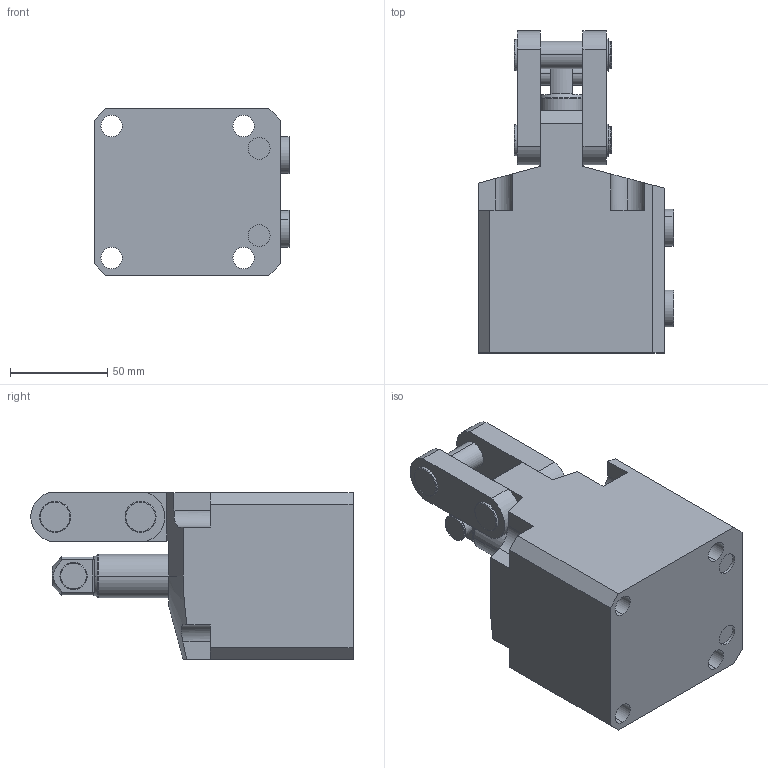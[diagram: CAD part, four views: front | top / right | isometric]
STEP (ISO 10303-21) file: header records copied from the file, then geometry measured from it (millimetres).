
FILE_DESCRIPTION(/* description */ (''),/* implementation_level */ '2;1');
FILE_NAME(/* name */ 'BPC16-L.stp',/* time_stamp */ '2025-01-05T09:58:57+08:00',/* author */ (''),/* organization */ (''),/* preprocessor_version */ 'ST-DEVELOPER v16.7',/* originating_system */ 'SIEMENS PLM Software NX 12.0',/* authorisation */ '');
FILE_SCHEMA (('AUTOMOTIVE_DESIGN { 1 0 10303 214 3 1 1 1 }'));
Length unit declared in the file: millimetre
Products named in the file (5): BPC16-L-04; BPC16-L-01; BPC16-L-02; BPC16-L-03; BPC16-L_stp
Assembly tree (5 placements, depth 2):
  BPC16-L_stp
    BPC16-L-03  x2
    BPC16-L-02
    BPC16-L-01
    BPC16-L-04
Bounding box: 100.8 x 165.95 x 86 mm (x, y, z)
Volume: 766022.4 mm3; surface area: 85338.1 mm2
Topology: 5 solids, 5 shells, 248 faces, 596 edges, 382 vertices
Faces by surface type: cylinder 110, plane 100, torus 20, cone 18
Entity records: 6931 total; most frequent: CARTESIAN_POINT 1281, DIRECTION 1240, ORIENTED_EDGE 1100, EDGE_CURVE 550, AXIS2_PLACEMENT_3D 485, VERTEX_POINT 354, LINE 270, VECTOR 270
